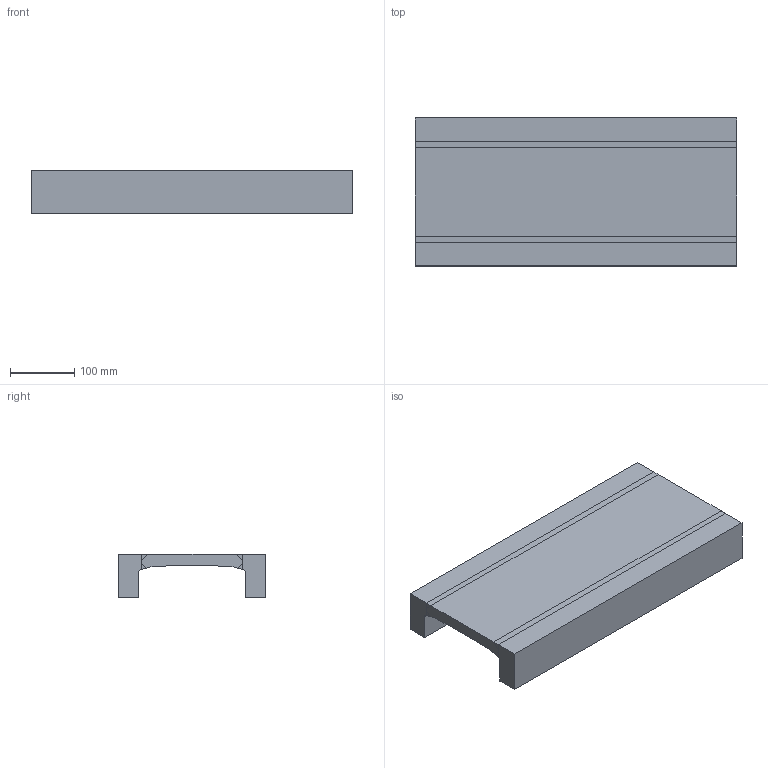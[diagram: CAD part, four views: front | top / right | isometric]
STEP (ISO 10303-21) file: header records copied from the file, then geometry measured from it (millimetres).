
FILE_DESCRIPTION((''),'2;1');
FILE_NAME('Z:\Kataloge\Katalog 109\Inventor-Dateien\Mammutrollen+MPI+MPU-Profile\ALFATEC_MPU_165_000.stp','2009-11-09T16:01:06',('Kircher'),(''),'Autodesk Inventor 2010','Autodesk Inventor 2010','');
FILE_SCHEMA(('CONFIG_CONTROL_DESIGN'));
Length unit declared in the file: millimetre
Products named in the file (4): ALFATEC_MPU_165_000; ALFATEC_MPU_165-Teil 1; ALFATEC_MPU_165-Teil 2; ALFATEC_MPU_165-Teil 3
Assembly tree (3 placements, depth 2):
  ALFATEC_MPU_165_000
    ALFATEC_MPU_165-Teil 1
    ALFATEC_MPU_165-Teil 2
    ALFATEC_MPU_165-Teil 3
Bounding box: 500 x 230 x 67.5 mm (x, y, z)
Volume: 3771195.7 mm3; surface area: 453385 mm2
Topology: 7 solids, 7 shells, 52 faces, 114 edges, 76 vertices
Faces by surface type: plane 50, cylinder 2
Entity records: 1529 total; most frequent: CARTESIAN_POINT 249, DIRECTION 236, ORIENTED_EDGE 228, EDGE_CURVE 114, VECTOR 110, LINE 110, VERTEX_POINT 76, AXIS2_PLACEMENT_3D 63
